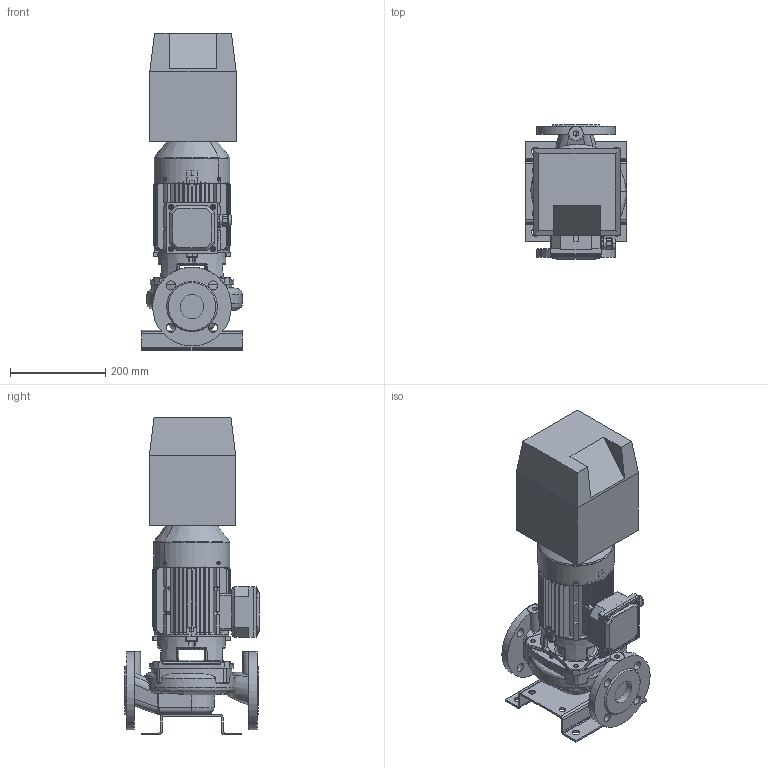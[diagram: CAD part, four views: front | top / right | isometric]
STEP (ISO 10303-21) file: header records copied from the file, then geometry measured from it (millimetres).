
FILE_DESCRIPTION(('STEP AP214'),'1');
FILE_NAME('export.stp','2018-08-08T13:08:12',(' '),(' '),'Spatial InterOp 3D',' ',' ');
FILE_SCHEMA(('AUTOMOTIVE_DESIGN { 1 0 10303 214 1 1 1 1 }'));
Length unit declared in the file: millimetre
Products named in the file (27): W_L50B2NC110KP; V_TLL50ABC; V_PPL50ABC; V_JALKA35973; 160031; 160001; V_MKP80-2_F15; M5x8_DIN; DIN_7985-M5X8; 160141; M5x12_DIN; DIN_7985-M5X12; 160137; 160138; 160139; 160140; Koura_Ale_M5; Plug_Blind_M20; Sealing_Plug_M20; plain_washer_grade_a_din_Washer_; 160039___; 160040___; 160133; NC_Size1
Assembly tree (29 placements, depth 5):
  W_L50B2NC110KP
    V_TLL50ABC
    V_PPL50ABC
    V_JALKA35973
    V_MKP80-2_F15
      160031
        160001
      160141
        M5x8_DIN
          DIN_7985-M5X8
        M5x12_DIN
          DIN_7985-M5X12
        M5x12_DIN
          DIN_7985-M5X12
        M5x12_DIN
          DIN_7985-M5X12
        M5x12_DIN
          DIN_7985-M5X12
        160137
        160138
        160139
        160140
        Koura_Ale_M5
        Plug_Blind_M20
        Sealing_Plug_M20
        plain_washer_grade_a_din_Washer_
      160039___
      160040___
      160133
    NC_Size1
Bounding box: 210 x 281.5 x 666 mm (x, y, z)
Volume: 11155185.4 mm3; surface area: 1307931.7 mm2
Topology: 21 solids, 21 shells, 2793 faces, 7306 edges, 4543 vertices
Faces by surface type: plane 1035, cylinder 865, bspline 345, torus 320, cone 161, sphere 67
Entity records: 110728 total; most frequent: CARTESIAN_POINT 42013, ORIENTED_EDGE 14204, DIRECTION 13151, EDGE_CURVE 7102, AXIS2_PLACEMENT_3D 5067, VERTEX_POINT 4447, EDGE_LOOP 3053, LINE 3017
